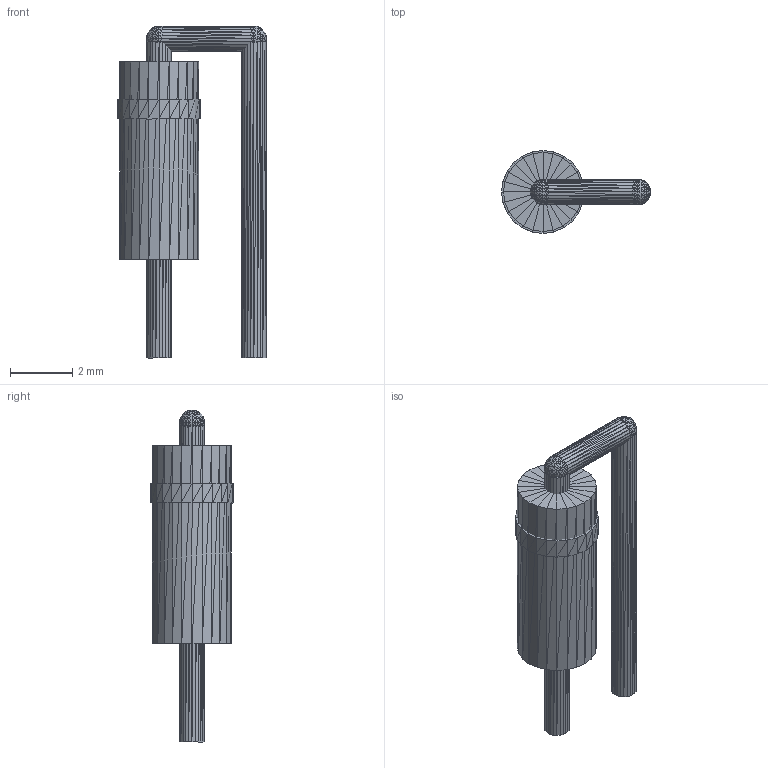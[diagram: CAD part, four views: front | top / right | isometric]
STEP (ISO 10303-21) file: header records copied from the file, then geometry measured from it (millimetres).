
FILE_DESCRIPTION(('HOOPS Exchange Step'),'2;1');
FILE_NAME('***.stp');
FILE_SCHEMA( ('AP242_MANAGED_MODEL_BASED_3D_ENGINEERING_MIM_LF {1 0 10303 442 1 1 4 }') );
Length unit declared in the file: inch
Products named in the file (8): DO-7_V_2; DO-7_V_3; DO-7_V_4; DO-7_V_5; DO-7_V_6; DO-7_V_7; DO-7_V_8; DO-7_V
Assembly tree (7 placements, depth 2):
  DO-7_V
    DO-7_V_2
    DO-7_V_3
    DO-7_V_4
    DO-7_V_5
    DO-7_V_6
    DO-7_V_7
    DO-7_V_8
Bounding box: 4.79 x 2.67 x 10.67 mm (x, y, z)
Volume: 47.8 mm3; surface area: 143.5 mm2
Topology: 7 solids, 7 shells, 1056 faces, 1584 edges, 542 vertices
Faces by surface type: plane 1056
Entity records: 20963 total; most frequent: DIRECTION 3728, CARTESIAN_POINT 3198, ORIENTED_EDGE 3168, VECTOR 1584, LINE 1584, EDGE_CURVE 1584, AXIS2_PLACEMENT_3D 1072, PLANE 1056
